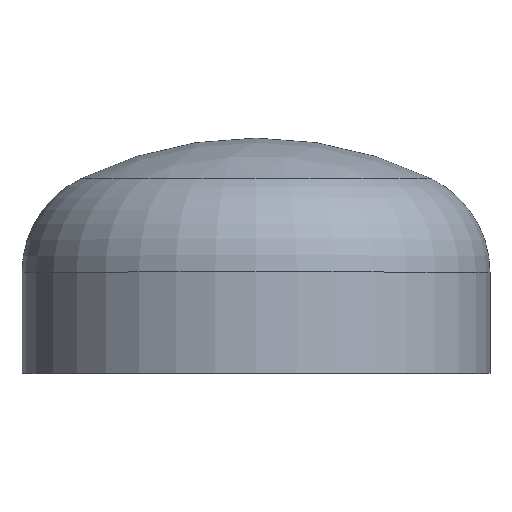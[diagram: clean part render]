
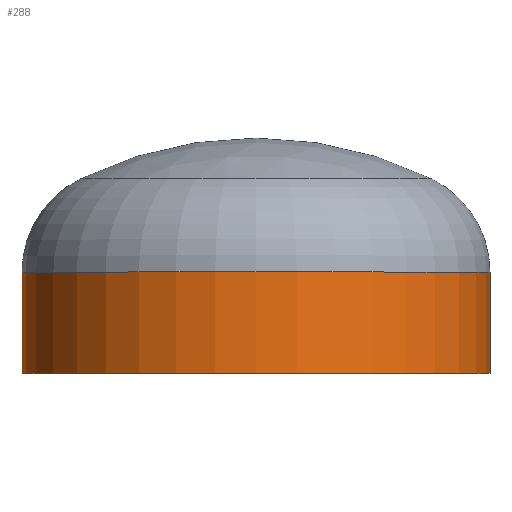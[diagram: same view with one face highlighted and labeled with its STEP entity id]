
A CAD part, top view. The second image highlights one B-rep face of the part: STEP entity #288.
In plain terms, the highlighted cylindrical face has radius 161.95 mm (diameter 323.9 mm), a partial arc.
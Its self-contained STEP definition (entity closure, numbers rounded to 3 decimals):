
#7 = AXIS2_PLACEMENT_3D ( 'NONE', #75, #386, #394 ) ;
#56 = VERTEX_POINT ( 'NONE', #279 ) ;
#58 = AXIS2_PLACEMENT_3D ( 'NONE', #328, #327, #324 ) ;
#70 = EDGE_CURVE ( 'NONE', #56, #175, #308, .T. ) ;
#75 = CARTESIAN_POINT ( 'NONE',  ( 0., 0., 0. ) ) ;
#80 = DIRECTION ( 'NONE',  ( 0., -1., 0. ) ) ;
#81 = ORIENTED_EDGE ( 'NONE', *, *, #369, .T. ) ;
#90 = CARTESIAN_POINT ( 'NONE',  ( -161.95, 0., 0. ) ) ;
#111 = DIRECTION ( 'NONE',  ( 0., -1., 0. ) ) ;
#126 = VERTEX_POINT ( 'NONE', #194 ) ;
#129 = ORIENTED_EDGE ( 'NONE', *, *, #363, .F. ) ;
#139 = EDGE_LOOP ( 'NONE', ( #396, #81, #129, #211 ) ) ;
#144 = VERTEX_POINT ( 'NONE', #196 ) ;
#172 = VECTOR ( 'NONE', #80, 1000. ) ;
#175 = VERTEX_POINT ( 'NONE', #237 ) ;
#194 = CARTESIAN_POINT ( 'NONE',  ( 161.95, 0., 0. ) ) ;
#196 = CARTESIAN_POINT ( 'NONE',  ( -161.95, 0., 0. ) ) ;
#203 = FACE_OUTER_BOUND ( 'NONE', #139, .T. ) ;
#211 = ORIENTED_EDGE ( 'NONE', *, *, #379, .F. ) ;
#237 = CARTESIAN_POINT ( 'NONE',  ( -161.95, 70., 0. ) ) ;
#245 = VECTOR ( 'NONE', #111, 1000. ) ;
#246 = DIRECTION ( 'NONE',  ( 1., 0., 0. ) ) ;
#261 = CIRCLE ( 'NONE', #273, 161.95 ) ;
#273 = AXIS2_PLACEMENT_3D ( 'NONE', #389, #392, #246 ) ;
#279 = CARTESIAN_POINT ( 'NONE',  ( 161.95, 70., 0. ) ) ;
#284 = CARTESIAN_POINT ( 'NONE',  ( 161.95, 0., 0. ) ) ;
#288 = ADVANCED_FACE ( 'NONE', ( #203 ), #399, .T. ) ;
#300 = LINE ( 'NONE', #284, #245 ) ;
#308 = CIRCLE ( 'NONE', #58, 161.95 ) ;
#311 = LINE ( 'NONE', #90, #172 ) ;
#324 = DIRECTION ( 'NONE',  ( 1., 0., 0. ) ) ;
#327 = DIRECTION ( 'NONE',  ( 0., -1., 0. ) ) ;
#328 = CARTESIAN_POINT ( 'NONE',  ( 0., 70., 0. ) ) ;
#363 = EDGE_CURVE ( 'NONE', #126, #144, #261, .T. ) ;
#369 = EDGE_CURVE ( 'NONE', #175, #144, #311, .T. ) ;
#379 = EDGE_CURVE ( 'NONE', #56, #126, #300, .T. ) ;
#386 = DIRECTION ( 'NONE',  ( 0., -1., 0. ) ) ;
#389 = CARTESIAN_POINT ( 'NONE',  ( 0., 0., 0. ) ) ;
#392 = DIRECTION ( 'NONE',  ( 0., -1., 0. ) ) ;
#394 = DIRECTION ( 'NONE',  ( 1., 0., 0. ) ) ;
#396 = ORIENTED_EDGE ( 'NONE', *, *, #70, .T. ) ;
#399 = CYLINDRICAL_SURFACE ( 'NONE', #7, 161.95 ) ;
